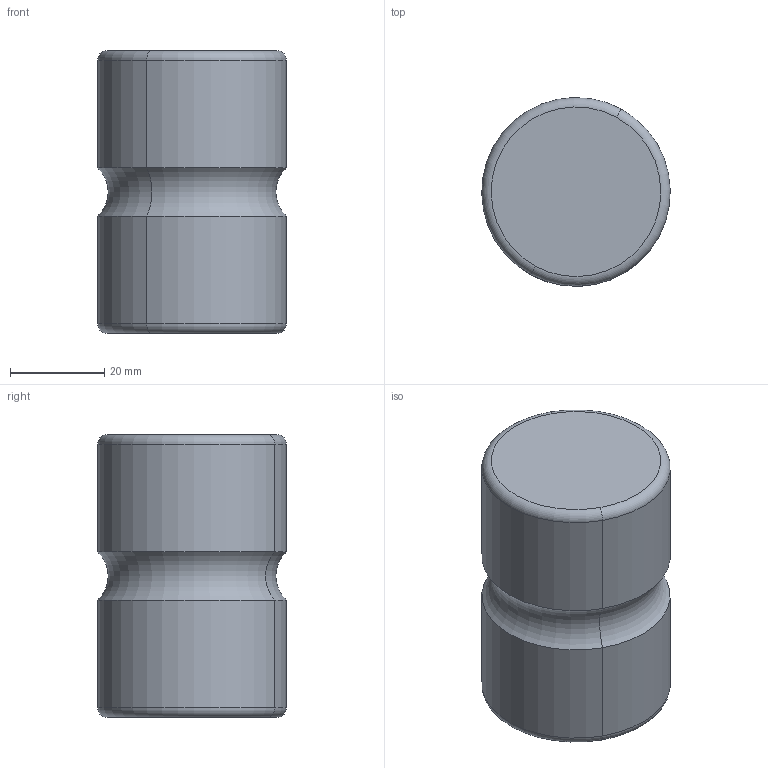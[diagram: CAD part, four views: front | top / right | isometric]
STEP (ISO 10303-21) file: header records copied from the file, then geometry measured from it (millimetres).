
FILE_DESCRIPTION(('CATIA V5 STEP Exchange'),'2;1');
FILE_NAME('C:\Users\d.catalano\Desktop\CATALOGO CAD\04 MOLLE\A519\A519-40.stp','2021-11-26T14:56:09+00:00',('none'),('none'),'CATIA Version 5 Release 19 SP 3 (IN-10)','CATIA V5 STEP AP203','none');
FILE_SCHEMA(('CONFIG_CONTROL_DESIGN'));
Length unit declared in the file: millimetre
Products named in the file (1): A519-40
Bounding box: 39.99 x 39.99 x 60 mm (x, y, z)
Volume: 73327.8 mm3; surface area: 9883.5 mm2
Topology: 1 solids, 1 shells, 12 faces, 22 edges, 12 vertices
Faces by surface type: torus 6, cylinder 4, plane 2
Entity records: 294 total; most frequent: ORIENTED_EDGE 44, CARTESIAN_POINT 41, DIRECTION 34, AXIS2_PLACEMENT_3D 25, EDGE_CURVE 22, CIRCLE 18, ADVANCED_FACE 12, EDGE_LOOP 12
